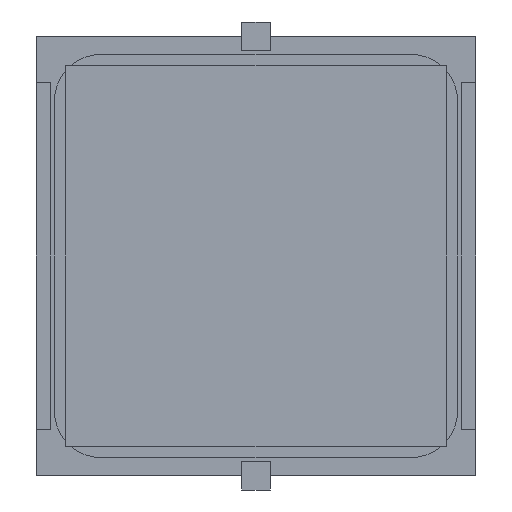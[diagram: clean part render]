
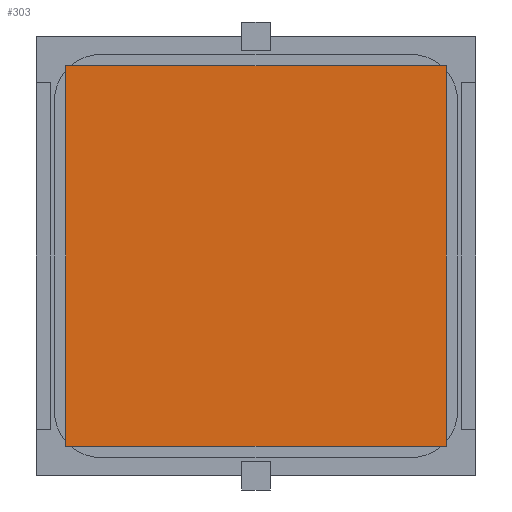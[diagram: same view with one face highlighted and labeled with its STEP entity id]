
A CAD part, front view. The second image highlights one B-rep face of the part: STEP entity #303.
In plain terms, the highlighted planar face has unit normal (0, -1, 0).
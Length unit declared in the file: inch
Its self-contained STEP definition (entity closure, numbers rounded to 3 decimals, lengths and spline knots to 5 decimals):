
#303 = ADVANCED_FACE ( 'NONE', ( #10261 ), #10213, .F. ) ;
#310 = CARTESIAN_POINT ( 'NONE',  ( -0.5315, -0.005, -0.5315 ) ) ;
#1092 = CARTESIAN_POINT ( 'NONE',  ( 0.5315, -0.005, -0.5315 ) ) ;
#1104 = DIRECTION ( 'NONE',  ( -1., 0., 0. ) ) ;
#1909 = CARTESIAN_POINT ( 'NONE',  ( -0.5315, -0.005, -0.5315 ) ) ;
#2117 = EDGE_CURVE ( 'NONE', #8108, #10511, #11235, .T. ) ;
#2180 = VECTOR ( 'NONE', #3062, 39.37008 ) ;
#2306 = DIRECTION ( 'NONE',  ( 0., 0., 1. ) ) ;
#2388 = DIRECTION ( 'NONE',  ( 0., 1., 0. ) ) ;
#2996 = VECTOR ( 'NONE', #7662, 39.37008 ) ;
#3062 = DIRECTION ( 'NONE',  ( 1., 0., 0. ) ) ;
#3107 = ORIENTED_EDGE ( 'NONE', *, *, #6164, .F. ) ;
#3137 = CARTESIAN_POINT ( 'NONE',  ( -0.5315, -0.005, 0.5315 ) ) ;
#4174 = CARTESIAN_POINT ( 'NONE',  ( -0.5315, -0.005, -0.5315 ) ) ;
#4588 = VECTOR ( 'NONE', #1104, 39.37008 ) ;
#5324 = VERTEX_POINT ( 'NONE', #1092 ) ;
#5453 = LINE ( 'NONE', #1909, #4588 ) ;
#5554 = CARTESIAN_POINT ( 'NONE',  ( 0.5315, -0.005, 0.5315 ) ) ;
#6053 = EDGE_LOOP ( 'NONE', ( #6806, #3107, #8474, #9005 ) ) ;
#6164 = EDGE_CURVE ( 'NONE', #5324, #8108, #5453, .T. ) ;
#6627 = CARTESIAN_POINT ( 'NONE',  ( -0.5315, -0.005, 0.5315 ) ) ;
#6806 = ORIENTED_EDGE ( 'NONE', *, *, #2117, .F. ) ;
#7161 = VERTEX_POINT ( 'NONE', #5554 ) ;
#7217 = EDGE_CURVE ( 'NONE', #10511, #7161, #9423, .T. ) ;
#7614 = CARTESIAN_POINT ( 'NONE',  ( -0.5315, -0.005, 0.5315 ) ) ;
#7662 = DIRECTION ( 'NONE',  ( 0., 0., -1. ) ) ;
#7663 = DIRECTION ( 'NONE',  ( 0., 0., 1. ) ) ;
#7778 = VECTOR ( 'NONE', #7663, 39.37008 ) ;
#8108 = VERTEX_POINT ( 'NONE', #310 ) ;
#8474 = ORIENTED_EDGE ( 'NONE', *, *, #10660, .F. ) ;
#8636 = LINE ( 'NONE', #9566, #2996 ) ;
#9005 = ORIENTED_EDGE ( 'NONE', *, *, #7217, .F. ) ;
#9423 = LINE ( 'NONE', #6627, #2180 ) ;
#9566 = CARTESIAN_POINT ( 'NONE',  ( 0.5315, -0.005, -0.5315 ) ) ;
#9915 = AXIS2_PLACEMENT_3D ( 'NONE', #7614, #2388, #2306 ) ;
#10213 = PLANE ( 'NONE',  #9915 ) ;
#10261 = FACE_OUTER_BOUND ( 'NONE', #6053, .T. ) ;
#10511 = VERTEX_POINT ( 'NONE', #3137 ) ;
#10660 = EDGE_CURVE ( 'NONE', #7161, #5324, #8636, .T. ) ;
#11235 = LINE ( 'NONE', #4174, #7778 ) ;
